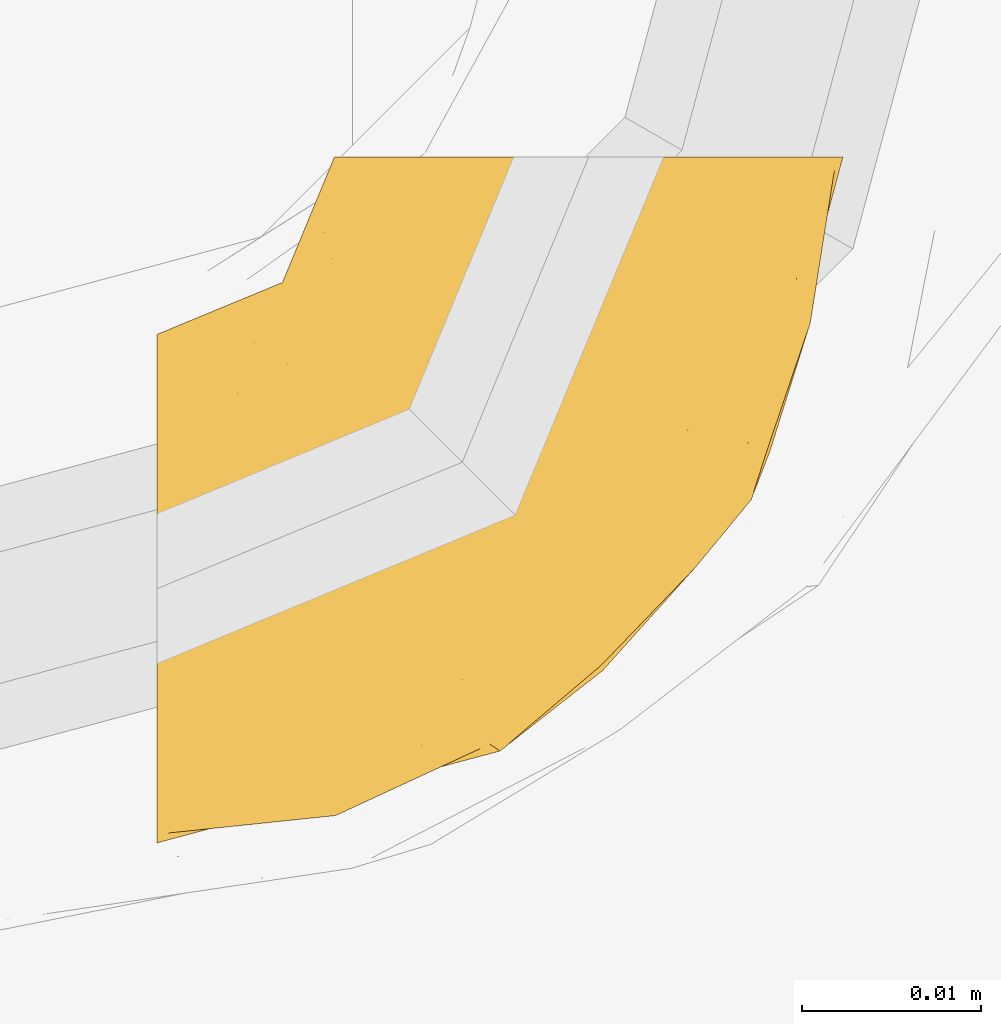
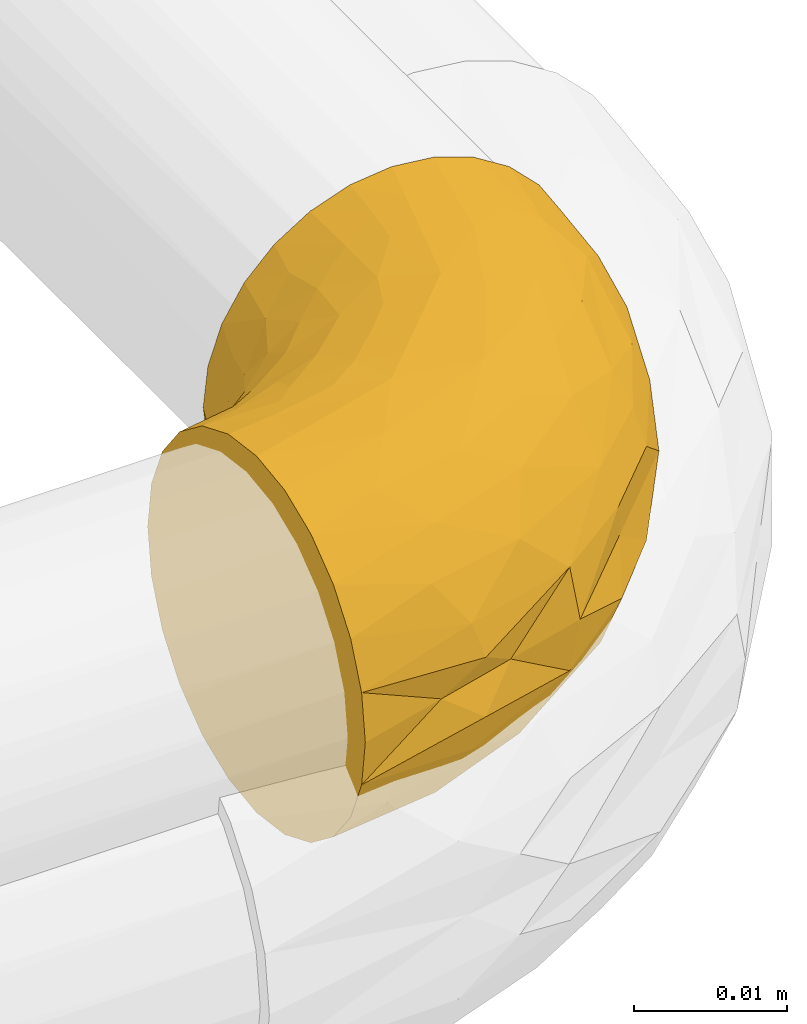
# One storey, part 14 of 32: 1 covering.
"""IFC2X3 building model written with IfcOpenShell, lengths in metres."""

from ifc_helpers import new_model, entity, si_unit, converted_unit, derived_unit, direction, frame, origin, place, context, subcontext, project, spatial, faceted_brep, material, type_object, element, save


model = new_model("IFC2X3")

# Units and contexts
model_context = context("Model", 3, precision=1e-05, world=origin(), true_north=direction((6.123031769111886e-17, 1.0)))
body_context = subcontext(model_context, "Body", "Model", "MODEL_VIEW")
ifc_project = project(units=[si_unit("LENGTHUNIT", "METRE"), si_unit("AREAUNIT", "SQUARE_METRE"), si_unit("VOLUMEUNIT", "CUBIC_METRE"), converted_unit("PLANEANGLEUNIT", "DEGREE", entity("IfcPlaneAngleMeasure", 0.017453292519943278), si_unit("PLANEANGLEUNIT", "RADIAN"), dimensions=[0, 0, 0, 0, 0, 0, 0]), si_unit("MASSUNIT", "GRAM", prefix="KILO"), derived_unit("MASSDENSITYUNIT", [(si_unit("MASSUNIT", "GRAM", prefix="KILO"), 1), (si_unit("LENGTHUNIT", "METRE"), -3)]), derived_unit("IONCONCENTRATIONUNIT", [(si_unit("MASSUNIT", "GRAM", prefix="KILO"), 1), (si_unit("LENGTHUNIT", "METRE"), -3)]), derived_unit("MOMENTOFINERTIAUNIT", [(si_unit("LENGTHUNIT", "METRE"), 4)]), si_unit("TIMEUNIT", "SECOND"), si_unit("FREQUENCYUNIT", "HERTZ"), si_unit("THERMODYNAMICTEMPERATUREUNIT", "DEGREE_CELSIUS"), derived_unit("THERMALTRANSMITTANCEUNIT", [(si_unit("MASSUNIT", "GRAM", prefix="KILO"), 1), (si_unit("THERMODYNAMICTEMPERATUREUNIT", "KELVIN"), -1), (si_unit("TIMEUNIT", "SECOND"), -3)]), derived_unit("THERMALCONDUCTANCEUNIT", [(si_unit("MASSUNIT", "GRAM", prefix="KILO"), 1), (si_unit("THERMODYNAMICTEMPERATUREUNIT", "KELVIN"), -1), (si_unit("TIMEUNIT", "SECOND"), -3), (si_unit("LENGTHUNIT", "METRE"), 1)]), derived_unit("VOLUMETRICFLOWRATEUNIT", [(si_unit("LENGTHUNIT", "METRE", prefix="DECI"), 3), (si_unit("TIMEUNIT", "SECOND"), -1)]), derived_unit("MASSFLOWRATEUNIT", [(si_unit("MASSUNIT", "GRAM", prefix="KILO"), 1), (si_unit("TIMEUNIT", "SECOND"), -1)]), derived_unit("ROTATIONALFREQUENCYUNIT", [(si_unit("TIMEUNIT", "SECOND"), -1)]), si_unit("ELECTRICCURRENTUNIT", "AMPERE"), si_unit("ELECTRICVOLTAGEUNIT", "VOLT"), si_unit("POWERUNIT", "WATT"), si_unit("FORCEUNIT", "NEWTON", prefix="KILO"), si_unit("ILLUMINANCEUNIT", "LUX"), si_unit("LUMINOUSFLUXUNIT", "LUMEN"), si_unit("LUMINOUSINTENSITYUNIT", "CANDELA"), si_unit("ENERGYUNIT", "JOULE"), derived_unit("USERDEFINED", [(si_unit("MASSUNIT", "GRAM", prefix="KILO"), -1), (si_unit("LENGTHUNIT", "METRE"), -2), (si_unit("TIMEUNIT", "SECOND"), 3), (si_unit("LUMINOUSFLUXUNIT", "LUMEN"), 1)]), derived_unit("USERDEFINED", [(si_unit("MASSUNIT", "GRAM", prefix="KILO"), 1), (si_unit("TIMEUNIT", "SECOND"), -3), (si_unit("LENGTHUNIT", "METRE"), 3), (si_unit("ELECTRICCURRENTUNIT", "AMPERE"), -2)]), derived_unit("SOUNDPOWERUNIT", [(si_unit("MASSUNIT", "GRAM", prefix="KILO"), 1), (si_unit("TIMEUNIT", "SECOND"), -3), (si_unit("LENGTHUNIT", "METRE"), 2)]), derived_unit("SOUNDPRESSUREUNIT", [(si_unit("MASSUNIT", "GRAM", prefix="KILO"), 1), (si_unit("LENGTHUNIT", "METRE"), -1), (si_unit("TIMEUNIT", "SECOND"), -2)]), derived_unit("LINEARVELOCITYUNIT", [(si_unit("LENGTHUNIT", "METRE"), 1), (si_unit("TIMEUNIT", "SECOND"), -1)]), si_unit("PRESSUREUNIT", "PASCAL"), derived_unit("USERDEFINED", [(si_unit("MASSUNIT", "GRAM", prefix="KILO"), 1), (si_unit("LENGTHUNIT", "METRE"), -2), (si_unit("TIMEUNIT", "SECOND"), -2)]), derived_unit("LINEARFORCEUNIT", [(si_unit("MASSUNIT", "GRAM", prefix="KILO"), 1), (si_unit("TIMEUNIT", "SECOND"), -2)]), derived_unit("PLANARFORCEUNIT", [(si_unit("MASSUNIT", "GRAM", prefix="KILO"), 1), (si_unit("LENGTHUNIT", "METRE"), -1), (si_unit("TIMEUNIT", "SECOND"), -2)]), derived_unit("SPECIFICHEATCAPACITYUNIT", [(si_unit("THERMODYNAMICTEMPERATUREUNIT", "KELVIN"), -1), (si_unit("LENGTHUNIT", "METRE"), 2), (si_unit("TIMEUNIT", "SECOND"), -2)]), derived_unit("HEATFLUXDENSITYUNIT", [(si_unit("MASSUNIT", "GRAM", prefix="KILO"), 1), (si_unit("TIMEUNIT", "SECOND"), -3)]), derived_unit("HEATINGVALUEUNIT", [(si_unit("LENGTHUNIT", "METRE"), 2), (si_unit("TIMEUNIT", "SECOND"), -2)]), derived_unit("VAPORPERMEABILITYUNIT", [(si_unit("LENGTHUNIT", "METRE"), -1), (si_unit("TIMEUNIT", "SECOND"), 1)]), derived_unit("DYNAMICVISCOSITYUNIT", [(si_unit("MASSUNIT", "GRAM", prefix="KILO"), 1), (si_unit("TIMEUNIT", "SECOND"), -1), (si_unit("LENGTHUNIT", "METRE"), -1)]), derived_unit("THERMALEXPANSIONCOEFFICIENTUNIT", [(si_unit("THERMODYNAMICTEMPERATUREUNIT", "KELVIN"), -1)]), derived_unit("MODULUSOFELASTICITYUNIT", [(si_unit("MASSUNIT", "GRAM", prefix="KILO"), 1), (si_unit("LENGTHUNIT", "METRE"), -1), (si_unit("TIMEUNIT", "SECOND"), -2)]), derived_unit("ISOTHERMALMOISTURECAPACITYUNIT", [(si_unit("MASSUNIT", "GRAM", prefix="KILO"), -1), (si_unit("LENGTHUNIT", "METRE"), 3)]), derived_unit("MOISTUREDIFFUSIVITYUNIT", [(si_unit("TIMEUNIT", "SECOND"), -1), (si_unit("LENGTHUNIT", "METRE"), 2)]), derived_unit("MASSPERLENGTHUNIT", [(si_unit("MASSUNIT", "GRAM", prefix="KILO"), 1), (si_unit("LENGTHUNIT", "METRE"), -1)]), derived_unit("THERMALRESISTANCEUNIT", [(si_unit("MASSUNIT", "GRAM", prefix="KILO"), -1), (si_unit("TIMEUNIT", "SECOND"), 3), (si_unit("THERMODYNAMICTEMPERATUREUNIT", "KELVIN"), 1)]), derived_unit("ACCELERATIONUNIT", [(si_unit("LENGTHUNIT", "METRE"), 1), (si_unit("TIMEUNIT", "SECOND"), -2)]), derived_unit("ANGULARVELOCITYUNIT", [(si_unit("TIMEUNIT", "SECOND"), -1), (si_unit("PLANEANGLEUNIT", "RADIAN"), 1)]), derived_unit("LINEARSTIFFNESSUNIT", [(si_unit("MASSUNIT", "GRAM", prefix="KILO"), 1), (si_unit("TIMEUNIT", "SECOND"), -2)]), derived_unit("WARPINGCONSTANTUNIT", [(si_unit("LENGTHUNIT", "METRE"), 6)]), derived_unit("LINEARMOMENTUNIT", [(si_unit("MASSUNIT", "GRAM", prefix="KILO"), 1), (si_unit("LENGTHUNIT", "METRE"), 1), (si_unit("TIMEUNIT", "SECOND"), -2)]), derived_unit("TORQUEUNIT", [(si_unit("MASSUNIT", "GRAM", prefix="KILO"), 1), (si_unit("LENGTHUNIT", "METRE"), 2), (si_unit("TIMEUNIT", "SECOND"), -2)])], contexts=[model_context])

# Site, building, storey
site_placement = place(None, origin())
site = spatial("IfcSite", under=ifc_project, at=site_placement, Name="Default", CompositionType="ELEMENT")
building_placement = place(site_placement, origin())
building = spatial("IfcBuilding", under=site, at=building_placement, CompositionType="ELEMENT")
storey_placement = place(building_placement, origin())
storey = spatial("IfcBuildingStorey", under=building, at=storey_placement, Name="Niveau 0", CompositionType="ELEMENT", Elevation=-1.949160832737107e-14)

# Covering
ifc_material = material(Name="Matériau du rendu 255-255-255")
covering_type = type_object("IfcCoveringType", Name="Isolation des canalisations:Par défaut", PredefinedType="INSULATION")
covering_placement = place(storey_placement, frame((-13.60099671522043, 1.3612578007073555, -0.41579527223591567)))
element("IfcCovering", 1, at=covering_placement, inside=storey, type_object=covering_type, material=ifc_material, Name="Isolation des canalisations:Par défaut", ObjectType="Isolation des canalisations:Par défaut", PredefinedType="INSULATION", context=body_context, shape_type="Brep", body=[
    faceted_brep([(0.02885664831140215, 0.03989527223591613, 0.029638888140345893), (0.031858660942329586, 0.03989527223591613, 0.028587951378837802), (0.034550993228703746, 0.03989527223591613, 0.02689555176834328), (0.036798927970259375, 0.03989527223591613, 0.02464675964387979), (0.03849001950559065, 0.03989527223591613, 0.021954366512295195), (0.039539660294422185, 0.03989527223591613, 0.018953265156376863), (0.039895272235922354, 0.03989527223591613, 0.015795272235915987), (0.03953888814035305, 0.03989527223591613, 0.012633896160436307), (0.03848795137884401, 0.03989527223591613, 0.009631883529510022), (0.036795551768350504, 0.03989527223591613, 0.006939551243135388), (0.0345467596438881, 0.03989527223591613, 0.00469161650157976), (0.031854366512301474, 0.03989527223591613, 0.0030005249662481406), (0.028853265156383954, 0.03989527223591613, 0.001950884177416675), (0.025695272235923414, 0.03989527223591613, 0.0015952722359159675), (0.022533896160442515, 0.03989527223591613, 0.001951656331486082), (0.019531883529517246, 0.03989527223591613, 0.0030025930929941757), (0.016839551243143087, 0.03989527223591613, 0.0046949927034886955), (0.014591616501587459, 0.03989527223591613, 0.006943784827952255), (0.012900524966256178, 0.03989527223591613, 0.009636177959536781), (0.011850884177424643, 0.03989527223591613, 0.012637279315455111), (0.011495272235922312, 0.03989527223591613, 0.015795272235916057), (0.01185165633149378, 0.03989527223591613, 0.01895664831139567), (0.012902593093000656, 0.03989527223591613, 0.021958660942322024), (0.014594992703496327, 0.03989527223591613, 0.024650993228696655), (0.016843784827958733, 0.03989527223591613, 0.026898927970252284), (0.019536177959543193, 0.03989527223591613, 0.028590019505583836), (0.02253727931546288, 0.03989527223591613, 0.029639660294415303), (0.025695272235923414, 0.03989527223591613, 0.02999527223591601), (0.0015952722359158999, 0.029511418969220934, 0.012120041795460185), (0.0015952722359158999, 0.028092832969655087, 0.008695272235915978), (0.0015952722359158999, 0.02583618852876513, 0.005754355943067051), (0.0015952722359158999, 0.0228952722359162, 0.0034977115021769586), (0.0015952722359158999, 0.019470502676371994, 0.002079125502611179), (0.0015952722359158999, 0.01579527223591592, 0.0015952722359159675), (0.0015952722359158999, 0.012120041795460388, 0.002079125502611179), (0.0015952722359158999, 0.008695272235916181, 0.0034977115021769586), (0.0015952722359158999, 0.005754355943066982, 0.005754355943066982), (0.0015952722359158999, 0.0034977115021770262, 0.008695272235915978), (0.0015952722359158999, 0.002079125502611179, 0.012120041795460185), (0.0015952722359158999, 0.0015952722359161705, 0.015795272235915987), (0.0015952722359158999, 0.002079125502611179, 0.019470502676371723), (0.0015952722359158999, 0.0034977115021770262, 0.02289527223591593), (0.0015952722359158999, 0.005754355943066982, 0.025836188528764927), (0.0015952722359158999, 0.008695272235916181, 0.02809283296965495), (0.0015952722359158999, 0.012120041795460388, 0.02951141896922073), (0.0015952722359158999, 0.01579527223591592, 0.02999527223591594), (0.0015952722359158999, 0.019470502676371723, 0.02951141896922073), (0.0015952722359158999, 0.02289527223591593, 0.028092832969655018), (0.0015952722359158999, 0.02583618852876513, 0.025836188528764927), (0.0015952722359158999, 0.028092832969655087, 0.022895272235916), (0.0015952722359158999, 0.029511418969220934, 0.019470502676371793), (0.0015952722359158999, 0.02999527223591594, 0.015795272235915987), (0.027048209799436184, 0.03146698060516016, 0.02973387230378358), (0.011558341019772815, 0.003120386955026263, 0.018166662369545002), (0.008375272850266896, 0.003411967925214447, 0.015795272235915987), (0.014560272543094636, 0.0050692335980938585, 0.015795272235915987), (0.014682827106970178, 0.011886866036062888, 0.028252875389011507), (0.010357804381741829, 0.007682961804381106, 0.026540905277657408), (0.018634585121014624, 0.010723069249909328, 0.026180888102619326), (0.02405349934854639, 0.024625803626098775, 0.029662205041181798), (0.022466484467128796, 0.027845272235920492, 0.02999527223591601), (0.03807237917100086, 0.030629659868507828, 0.020088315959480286), (0.03458658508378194, 0.02392756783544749, 0.022434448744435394), (0.03564178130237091, 0.0234590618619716, 0.019507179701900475), (0.020408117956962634, 0.018688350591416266, 0.029344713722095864), (0.01805587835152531, 0.023434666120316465, 0.02999527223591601), (0.016364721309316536, 0.007069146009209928, 0.023549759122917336), (0.010797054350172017, 0.003657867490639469, 0.02080360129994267), (0.020172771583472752, 0.007105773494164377, 0.019923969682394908), (0.0074916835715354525, 0.010332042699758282, 0.02864407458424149), (0.010237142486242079, 0.014222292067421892, 0.029677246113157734), (0.025582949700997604, 0.012450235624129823, 0.02280278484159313), (0.013645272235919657, 0.019024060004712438, 0.02999527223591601), (0.010976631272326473, 0.018308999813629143, 0.02999527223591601), (0.008307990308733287, 0.017593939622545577, 0.02999527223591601), (0.007620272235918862, 0.017409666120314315, 0.02999527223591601), (0.004951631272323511, 0.01669460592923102, 0.02999527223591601), (0.025175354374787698, 0.02208875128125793, 0.02890854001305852), (0.02155615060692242, 0.0157517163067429, 0.028018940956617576), (0.026742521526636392, 0.020432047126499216, 0.027726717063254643), (0.03307723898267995, 0.032926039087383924, 0.027427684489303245), (0.034991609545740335, 0.030551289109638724, 0.025267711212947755), (0.037297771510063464, 0.03305521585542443, 0.02297391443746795), (0.03642131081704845, 0.026930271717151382, 0.015795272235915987), (0.030395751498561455, 0.03354339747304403, 0.0289314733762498), (0.02873854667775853, 0.026409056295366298, 0.028565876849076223), (0.008485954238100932, 0.0049076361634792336, 0.024042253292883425), (0.02479593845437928, 0.03653891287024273, 0.02999527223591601), (0.024080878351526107, 0.03387027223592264, 0.02999527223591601), (0.023896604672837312, 0.033182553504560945, 0.02999527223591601), (0.023181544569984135, 0.03051391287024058, 0.02999527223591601), (0.031219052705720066, 0.024636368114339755, 0.02659257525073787), (0.030558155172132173, 0.019588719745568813, 0.024430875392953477), (0.03807857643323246, 0.03311527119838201, 0.015795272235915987), (0.025554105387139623, 0.016105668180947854, 0.02619996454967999), (0.027754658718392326, 0.013735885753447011, 0.015795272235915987), (0.03476404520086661, 0.02074527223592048, 0.015795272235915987), (0.03164333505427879, 0.016963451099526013, 0.019534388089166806), (0.02074527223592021, 0.006726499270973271, 0.015795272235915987), (0.02639706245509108, 0.011513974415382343, 0.019908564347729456), (0.03130855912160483, 0.01814369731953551, 0.02209913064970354), (0.015850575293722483, 0.02122936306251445, 0.02999527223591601), (0.02026118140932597, 0.025639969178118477, 0.02999527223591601), (0.019055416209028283, 0.030232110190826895, 0.029377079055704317), (0.01941299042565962, 0.03504783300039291, 0.0288294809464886), (0.016324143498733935, 0.033347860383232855, 0.027539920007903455), (0.01008373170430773, 0.02060062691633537, 0.029670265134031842), (0.005334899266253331, 0.019902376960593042, 0.029488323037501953), (0.006124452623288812, 0.026696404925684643, 0.025730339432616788), (0.008851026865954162, 0.028391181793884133, 0.02535629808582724), (0.00699704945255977, 0.029556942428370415, 0.022650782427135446), (0.01197247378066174, 0.025886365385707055, 0.028333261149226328), (0.012855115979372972, 0.022493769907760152, 0.029588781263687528), (0.015604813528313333, 0.02503988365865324, 0.02950996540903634), (0.003990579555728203, 0.028891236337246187, 0.021863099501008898), (0.006747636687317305, 0.021581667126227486, 0.029057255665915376), (0.00477823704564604, 0.024031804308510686, 0.027581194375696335), (0.007441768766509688, 0.03137801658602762, 0.01926640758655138), (0.008595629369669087, 0.03289491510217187, 0.015795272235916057), (0.005095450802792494, 0.03144509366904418, 0.015795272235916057), (0.009650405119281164, 0.03317880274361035, 0.01983888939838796), (0.022275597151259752, 0.036552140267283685, 0.029641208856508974), (0.010954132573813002, 0.035689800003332, 0.018973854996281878), (0.011348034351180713, 0.03423455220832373, 0.02189433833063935), (0.012210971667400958, 0.03722732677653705, 0.021143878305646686), (0.013823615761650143, 0.03578073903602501, 0.024527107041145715), (0.012045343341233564, 0.032410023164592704, 0.024465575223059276), (0.009717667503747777, 0.031437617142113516, 0.022761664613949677), (0.016254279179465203, 0.036925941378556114, 0.026659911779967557), (0.02184288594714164, 0.03340468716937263, 0.02970888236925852), (0.004526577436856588, 0.030103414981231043, 0.018798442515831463), (0.010045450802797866, 0.036395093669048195, 0.015795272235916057), (0.015405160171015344, 0.028851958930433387, 0.028462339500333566), (0.01410895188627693, 0.031813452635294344, 0.0266090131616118), (0.008820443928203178, 0.025603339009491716, 0.02746848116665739), (0.008460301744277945, 0.023265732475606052, 0.028613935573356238), (0.017780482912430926, 0.027264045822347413, 0.02953936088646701), (0.011880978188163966, 0.02973434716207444, 0.026220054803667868), (0.009715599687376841, 0.031438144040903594, 0.008832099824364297), (0.007441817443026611, 0.03137796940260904, 0.012323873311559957), (0.009649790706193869, 0.03318033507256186, 0.011756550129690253), (0.024795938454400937, 0.036538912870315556, 0.0015952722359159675), (0.004806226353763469, 0.02987116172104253, 0.011626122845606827), (0.010976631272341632, 0.01830899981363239, 0.0015952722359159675), (0.010083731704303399, 0.020600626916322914, 0.0019202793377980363), (0.013645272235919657, 0.019024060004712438, 0.0015952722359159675), (0.004199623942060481, 0.028677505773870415, 0.009216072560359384), (0.005334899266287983, 0.01990237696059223, 0.002102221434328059), (0.0049516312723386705, 0.016694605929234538, 0.0015952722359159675), (0.011877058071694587, 0.02973849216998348, 0.005375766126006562), (0.01539894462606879, 0.028856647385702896, 0.003132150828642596), (0.011966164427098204, 0.025891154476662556, 0.0032613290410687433), (0.008460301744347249, 0.023265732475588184, 0.002976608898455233), (0.006747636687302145, 0.02158166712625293, 0.002533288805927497), (0.00477823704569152, 0.024031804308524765, 0.0040093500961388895), (0.006123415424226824, 0.026696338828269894, 0.005860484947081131), (0.008848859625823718, 0.028391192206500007, 0.006235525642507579), (0.006993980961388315, 0.029555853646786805, 0.008940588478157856), (0.012209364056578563, 0.03722818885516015, 0.010451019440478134), (0.01095411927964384, 0.0356911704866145, 0.012619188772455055), (0.019407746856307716, 0.035048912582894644, 0.0027633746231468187), (0.022272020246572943, 0.036550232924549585, 0.0019500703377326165), (0.013820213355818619, 0.03578262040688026, 0.007068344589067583), (0.024080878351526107, 0.03387027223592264, 0.0015952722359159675), (0.023896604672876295, 0.03318255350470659, 0.0015952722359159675), (0.019050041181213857, 0.030228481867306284, 0.0022143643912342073), (0.016318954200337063, 0.03335039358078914, 0.004054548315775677), (0.016249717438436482, 0.036927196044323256, 0.004934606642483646), (0.011346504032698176, 0.03423654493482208, 0.00970109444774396), (0.01204243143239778, 0.03241284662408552, 0.0071301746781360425), (0.008816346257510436, 0.025602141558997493, 0.004122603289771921), (0.01285993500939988, 0.02249765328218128, 0.0020019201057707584), (0.023181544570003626, 0.030513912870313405, 0.0015952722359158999), (0.022466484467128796, 0.027845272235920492, 0.0015952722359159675), (0.021177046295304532, 0.031866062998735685, 0.0019021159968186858), (0.014104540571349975, 0.03181664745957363, 0.004986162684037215), (0.017767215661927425, 0.02727960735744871, 0.002056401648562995), (0.01805587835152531, 0.023434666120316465, 0.0015952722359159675), (0.015607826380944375, 0.025054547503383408, 0.0020828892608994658), (0.02026118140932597, 0.025639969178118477, 0.0015952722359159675), (0.015850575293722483, 0.02122936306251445, 0.0015952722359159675), (0.008307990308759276, 0.017593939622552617, 0.0015952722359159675), (0.007620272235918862, 0.017409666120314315, 0.0015952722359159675), (0.010356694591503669, 0.007682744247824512, 0.005049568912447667), (0.014679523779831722, 0.011885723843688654, 0.003337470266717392), (0.018634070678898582, 0.010723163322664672, 0.005409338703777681), (0.03307315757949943, 0.032926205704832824, 0.0041600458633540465), (0.010237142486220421, 0.014222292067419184, 0.0019132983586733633), (0.025592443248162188, 0.012458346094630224, 0.008788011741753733), (0.03164297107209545, 0.01696382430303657, 0.01205426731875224), (0.026466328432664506, 0.011208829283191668, 0.012737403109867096), (0.030556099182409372, 0.01959090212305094, 0.0071558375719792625), (0.031215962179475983, 0.024638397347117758, 0.00499482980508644), (0.03498806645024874, 0.030551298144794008, 0.0063190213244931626), (0.007489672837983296, 0.010331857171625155, 0.0029463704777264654), (0.010798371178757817, 0.003658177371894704, 0.010787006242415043), (0.016368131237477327, 0.007070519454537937, 0.008041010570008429), (0.02017317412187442, 0.0071058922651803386, 0.011666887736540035), (0.028735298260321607, 0.026410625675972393, 0.0030229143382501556), (0.02498476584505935, 0.0193892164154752, 0.003443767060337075), (0.024053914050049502, 0.02462661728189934, 0.001928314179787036), (0.03807109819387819, 0.03062937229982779, 0.011498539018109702), (0.027046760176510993, 0.031468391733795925, 0.001856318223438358), (0.008487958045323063, 0.004907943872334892, 0.007548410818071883), (0.03729500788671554, 0.03305363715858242, 0.008612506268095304), (0.03458457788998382, 0.023928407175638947, 0.009151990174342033), (0.020410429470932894, 0.018689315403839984, 0.0022460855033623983), (0.020003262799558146, 0.015393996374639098, 0.003193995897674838), (0.011558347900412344, 0.0031203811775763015, 0.013423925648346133), (0.025551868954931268, 0.01610823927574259, 0.005387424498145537), (0.030392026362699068, 0.033543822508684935, 0.0026575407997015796), (0.03582275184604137, 0.023469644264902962, 0.012727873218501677), (0.03130512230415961, 0.01814165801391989, 0.00948824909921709)], [[[0, 1, 2, 3, 4, 5, 6, 7, 8, 9, 10, 11, 12, 13, 14, 15, 16, 17, 18, 19, 20, 21, 22, 23, 24, 25, 26, 27]], [[28, 29, 30, 31, 32, 33, 34, 35, 36, 37, 38, 39, 40, 41, 42, 43, 44, 45, 46, 47, 48, 49, 50, 51]], [[27, 52, 0]], [[53, 54, 55]], [[56, 57, 58]], [[59, 52, 60]], [[61, 62, 63]], [[64, 59, 65]], [[66, 67, 68]], [[57, 56, 69]], [[70, 45, 44]], [[43, 42, 57]], [[66, 68, 71]], [[70, 72, 73, 74, 75, 76, 45]], [[44, 43, 69]], [[77, 78, 79]], [[80, 81, 2]], [[41, 40, 67]], [[82, 62, 61]], [[2, 81, 3]], [[63, 83, 61]], [[61, 5, 4]], [[84, 52, 85]], [[40, 39, 54]], [[58, 78, 56]], [[66, 86, 67]], [[86, 42, 41]], [[52, 27, 87, 88, 89, 90, 60]], [[91, 92, 81]], [[70, 64, 72]], [[80, 2, 1]], [[93, 5, 61]], [[1, 0, 84]], [[93, 6, 5]], [[81, 80, 91]], [[4, 82, 61]], [[54, 53, 40]], [[82, 4, 3]], [[68, 67, 53]], [[86, 57, 42]], [[58, 94, 78]], [[69, 70, 44]], [[64, 70, 56]], [[78, 64, 56]], [[85, 52, 59]], [[3, 81, 82]], [[62, 82, 81]], [[84, 80, 1]], [[91, 80, 85]], [[79, 91, 85]], [[91, 94, 92]], [[95, 96, 97]], [[94, 58, 71]], [[98, 95, 99]], [[99, 95, 97]], [[92, 62, 81]], [[92, 100, 62]], [[68, 99, 71]], [[52, 84, 0]], [[80, 84, 85]], [[67, 86, 41]], [[57, 86, 66]], [[57, 66, 58]], [[71, 58, 66]], [[64, 65, 101, 72]], [[77, 79, 85]], [[59, 60, 102, 65]], [[94, 71, 92]], [[71, 99, 100]], [[68, 53, 55]], [[98, 68, 55]], [[40, 53, 67]], [[71, 100, 92]], [[63, 100, 97]], [[57, 69, 43]], [[70, 69, 56]], [[100, 63, 62]], [[83, 93, 61]], [[79, 78, 94]], [[91, 79, 94]], [[85, 59, 77]], [[59, 64, 77]], [[78, 77, 64]], [[99, 68, 98]], [[100, 99, 97]], [[97, 96, 63]], [[83, 63, 96]], [[103, 104, 105]], [[72, 106, 73]], [[47, 46, 107]], [[107, 46, 76]], [[108, 109, 110]], [[111, 112, 113]], [[108, 110, 114]], [[47, 115, 116]], [[117, 118, 119]], [[108, 49, 48]], [[118, 117, 120]], [[25, 121, 26]], [[49, 114, 50]], [[122, 123, 124]], [[124, 125, 22]], [[126, 123, 127]], [[128, 104, 24]], [[129, 103, 60]], [[24, 104, 25]], [[27, 26, 87]], [[123, 120, 127]], [[130, 117, 119]], [[107, 76, 75, 74, 73]], [[131, 118, 122, 20]], [[105, 132, 103]], [[21, 124, 22]], [[23, 22, 125]], [[121, 87, 26]], [[126, 133, 125]], [[130, 110, 117]], [[123, 122, 120]], [[128, 24, 23]], [[50, 130, 51]], [[128, 125, 105]], [[129, 121, 104]], [[116, 108, 48]], [[134, 135, 111]], [[135, 112, 111]], [[127, 120, 117]], [[21, 20, 122]], [[125, 124, 123]], [[21, 122, 124]], [[105, 133, 132]], [[136, 103, 132]], [[111, 132, 137]], [[113, 136, 132]], [[111, 137, 109]], [[112, 106, 72]], [[118, 120, 122]], [[127, 117, 110]], [[109, 127, 110]], [[126, 127, 137]], [[133, 126, 137]], [[125, 123, 126]], [[132, 133, 137]], [[125, 133, 105]], [[125, 128, 23]], [[104, 128, 105]], [[113, 101, 65]], [[101, 113, 112]], [[102, 136, 65]], [[132, 111, 113]], [[103, 102, 60]], [[104, 121, 25]], [[121, 89, 88, 87]], [[129, 60, 90, 89]], [[121, 129, 89]], [[115, 107, 106]], [[106, 112, 135]], [[73, 106, 107]], [[106, 135, 115]], [[116, 115, 135]], [[47, 107, 115]], [[116, 135, 134]], [[47, 116, 48]], [[51, 130, 119]], [[130, 50, 114]], [[112, 72, 101]], [[108, 114, 49]], [[130, 114, 110]], [[65, 136, 113]], [[102, 103, 136]], [[46, 45, 76]], [[109, 108, 134]], [[127, 109, 137]], [[109, 134, 111]], [[116, 134, 108]], [[103, 129, 104]], [[138, 139, 140]], [[14, 13, 141]], [[119, 142, 51]], [[139, 142, 119]], [[143, 144, 145]], [[142, 146, 28]], [[147, 148, 32]], [[149, 150, 151]], [[152, 153, 154]], [[118, 139, 119]], [[155, 29, 146]], [[138, 156, 157]], [[158, 159, 19]], [[157, 139, 138]], [[18, 158, 19]], [[160, 15, 161]], [[17, 162, 18]], [[161, 141, 163, 164]], [[160, 165, 166]], [[147, 32, 31]], [[17, 16, 167]], [[168, 158, 162]], [[160, 166, 167]], [[149, 138, 169]], [[170, 156, 151]], [[151, 171, 152]], [[172, 173, 174, 164]], [[14, 161, 15]], [[155, 30, 29]], [[160, 16, 15]], [[19, 159, 20]], [[118, 131, 20, 159]], [[169, 175, 149]], [[167, 162, 17]], [[174, 165, 160]], [[156, 155, 157]], [[155, 170, 154]], [[150, 166, 165]], [[118, 159, 140]], [[142, 139, 157]], [[162, 158, 18]], [[159, 158, 168]], [[159, 168, 140]], [[176, 177, 178]], [[150, 149, 175]], [[176, 178, 150]], [[171, 145, 144]], [[165, 179, 176]], [[170, 151, 152]], [[140, 168, 138]], [[118, 140, 139]], [[169, 138, 168]], [[156, 138, 149]], [[168, 162, 169]], [[175, 162, 166]], [[162, 175, 169]], [[150, 175, 166]], [[160, 167, 16]], [[162, 167, 166]], [[178, 171, 151]], [[178, 180, 171]], [[151, 150, 178]], [[165, 173, 179]], [[176, 150, 165]], [[141, 161, 14]], [[174, 173, 165]], [[174, 161, 164]], [[152, 144, 153]], [[147, 143, 181, 182, 148]], [[147, 153, 144]], [[147, 144, 143]], [[171, 144, 152]], [[147, 31, 153]], [[154, 31, 30]], [[31, 154, 153]], [[155, 154, 30]], [[146, 142, 157]], [[142, 28, 51]], [[155, 146, 157]], [[28, 146, 29]], [[180, 178, 177]], [[180, 145, 171]], [[177, 176, 179]], [[148, 33, 32]], [[151, 156, 149]], [[154, 170, 152]], [[156, 170, 155]], [[161, 174, 160]], [[183, 184, 185]], [[10, 186, 11]], [[187, 33, 148, 182, 181, 143, 145]], [[188, 189, 190]], [[191, 192, 193]], [[34, 194, 35]], [[195, 38, 37]], [[195, 196, 197]], [[194, 183, 35]], [[54, 39, 38]], [[183, 36, 35]], [[98, 55, 197]], [[198, 199, 200]], [[8, 7, 201]], [[200, 173, 202]], [[203, 195, 37]], [[13, 12, 202]], [[36, 203, 37]], [[9, 193, 10]], [[204, 205, 193]], [[187, 206, 207]], [[193, 186, 10]], [[7, 6, 93]], [[55, 208, 197]], [[186, 192, 198]], [[201, 204, 8]], [[192, 199, 198]], [[192, 191, 209]], [[202, 173, 172, 164, 163, 141, 13]], [[7, 93, 201]], [[210, 202, 12]], [[204, 9, 8]], [[33, 187, 34]], [[11, 210, 12]], [[83, 96, 211]], [[207, 206, 199]], [[38, 195, 208]], [[207, 185, 184]], [[203, 183, 196]], [[206, 187, 145]], [[194, 187, 184]], [[206, 177, 200]], [[206, 200, 199]], [[205, 204, 201]], [[193, 9, 204]], [[192, 186, 193]], [[210, 186, 198]], [[191, 193, 205]], [[199, 192, 209]], [[196, 185, 188]], [[190, 98, 197]], [[197, 196, 188]], [[95, 189, 96]], [[211, 205, 201]], [[190, 189, 95]], [[212, 188, 191]], [[186, 210, 11]], [[202, 210, 198]], [[183, 203, 36]], [[195, 203, 196]], [[188, 185, 209]], [[196, 183, 185]], [[198, 200, 202]], [[212, 191, 205]], [[206, 145, 180, 177]], [[200, 177, 179, 173]], [[188, 209, 191]], [[38, 208, 54]], [[54, 208, 55]], [[197, 208, 195]], [[205, 189, 212]], [[188, 212, 189]], [[187, 194, 34]], [[183, 194, 184]], [[189, 211, 96]], [[201, 93, 83]], [[209, 185, 207]], [[207, 199, 209]], [[187, 207, 184]], [[98, 190, 95]], [[188, 190, 197]], [[205, 211, 189]], [[83, 211, 201]]]),
])

save(model, "model.ifc")
